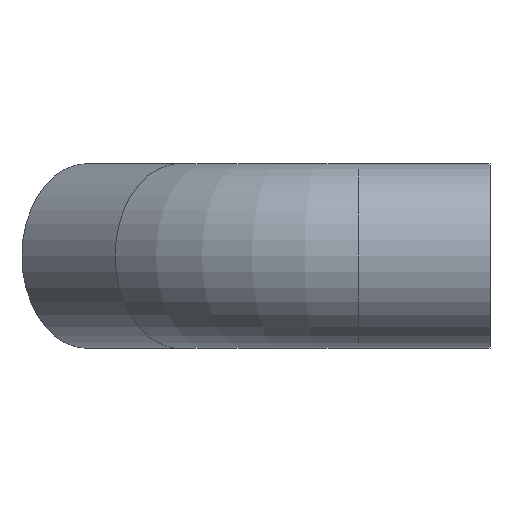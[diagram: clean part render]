
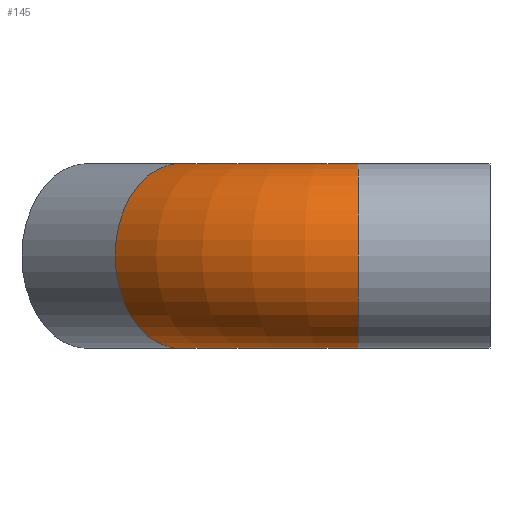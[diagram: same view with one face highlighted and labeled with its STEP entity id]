
A CAD part, left-side view. The second image highlights one B-rep face of the part: STEP entity #145.
In plain terms, the highlighted toroidal (fillet/blend) face has major radius 229 mm and minor radius 84.15 mm.
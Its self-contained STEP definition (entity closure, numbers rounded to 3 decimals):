
#20=TOROIDAL_SURFACE('',#184,229.,84.15);
#25=FACE_OUTER_BOUND('',#33,.T.);
#33=EDGE_LOOP('',(#119,#120,#121,#122,#123,#124));
#56=CIRCLE('',#182,84.15);
#57=CIRCLE('',#183,84.15);
#58=CIRCLE('',#185,144.85);
#59=CIRCLE('',#186,84.15);
#60=CIRCLE('',#187,84.15);
#71=VERTEX_POINT('',#271);
#72=VERTEX_POINT('',#273);
#73=VERTEX_POINT('',#277);
#74=VERTEX_POINT('',#279);
#89=EDGE_CURVE('',#71,#72,#56,.T.);
#90=EDGE_CURVE('',#72,#71,#57,.T.);
#91=EDGE_CURVE('',#71,#73,#58,.T.);
#92=EDGE_CURVE('',#73,#74,#59,.T.);
#93=EDGE_CURVE('',#74,#73,#60,.T.);
#119=ORIENTED_EDGE('',*,*,#90,.F.);
#120=ORIENTED_EDGE('',*,*,#89,.F.);
#121=ORIENTED_EDGE('',*,*,#91,.T.);
#122=ORIENTED_EDGE('',*,*,#92,.T.);
#123=ORIENTED_EDGE('',*,*,#93,.T.);
#124=ORIENTED_EDGE('',*,*,#91,.F.);
#145=ADVANCED_FACE('',(#25),#20,.T.);
#182=AXIS2_PLACEMENT_3D('',#274,#224,#225);
#183=AXIS2_PLACEMENT_3D('',#275,#226,#227);
#184=AXIS2_PLACEMENT_3D('',#276,#228,#229);
#185=AXIS2_PLACEMENT_3D('',#278,#230,#231);
#186=AXIS2_PLACEMENT_3D('',#280,#232,#233);
#187=AXIS2_PLACEMENT_3D('',#281,#234,#235);
#224=DIRECTION('center_axis',(0.707,0.707,0.));
#225=DIRECTION('ref_axis',(-0.707,0.707,0.));
#226=DIRECTION('center_axis',(0.707,0.707,0.));
#227=DIRECTION('ref_axis',(-0.707,0.707,0.));
#228=DIRECTION('center_axis',(0.,0.,-1.));
#229=DIRECTION('ref_axis',(-1.,0.,0.));
#230=DIRECTION('center_axis',(0.,0.,1.));
#231=DIRECTION('ref_axis',(-1.,0.,0.));
#232=DIRECTION('center_axis',(0.,1.,0.));
#233=DIRECTION('ref_axis',(-1.,0.,0.));
#234=DIRECTION('center_axis',(0.,1.,0.));
#235=DIRECTION('ref_axis',(-1.,0.,0.));
#271=CARTESIAN_POINT('',(126.576,222.424,0.));
#273=CARTESIAN_POINT('',(7.57,341.43,0.));
#274=CARTESIAN_POINT('Origin',(67.073,281.927,0.));
#275=CARTESIAN_POINT('Origin',(67.073,281.927,0.));
#276=CARTESIAN_POINT('Origin',(229.,120.,0.));
#277=CARTESIAN_POINT('',(84.15,120.,0.));
#278=CARTESIAN_POINT('Origin',(229.,120.,0.));
#279=CARTESIAN_POINT('',(-84.15,120.,0.));
#280=CARTESIAN_POINT('Origin',(0.,120.,0.));
#281=CARTESIAN_POINT('Origin',(0.,120.,0.));
